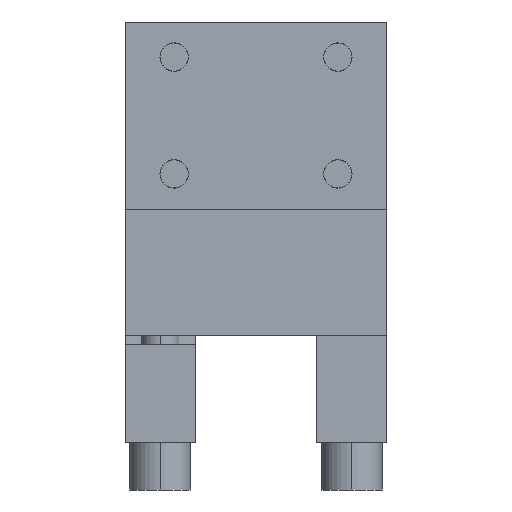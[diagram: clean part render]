
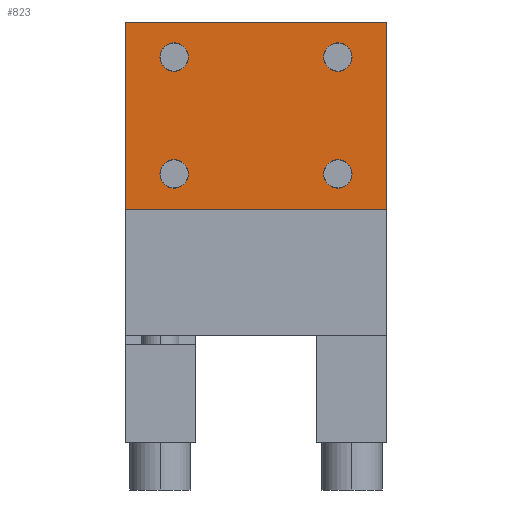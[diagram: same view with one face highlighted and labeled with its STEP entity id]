
A CAD part, left-side view. The second image highlights one B-rep face of the part: STEP entity #823.
In plain terms, the highlighted planar face has unit normal (-1, 0, 0).
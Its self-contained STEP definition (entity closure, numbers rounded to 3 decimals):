
#823=ADVANCED_FACE('Pad.1',(#1981,#1982,#1983,#1984,#1985),#1986,.T.);
#1981=FACE_OUTER_BOUND('',#3584,.T.);
#1982=FACE_BOUND('',#3585,.T.);
#1983=FACE_BOUND('',#3586,.T.);
#1984=FACE_BOUND('',#3587,.T.);
#1985=FACE_BOUND('',#3588,.T.);
#1986=PLANE('',#3589);
#3584=EDGE_LOOP('',(#5667,#5668,#5669,#5670));
#3585=EDGE_LOOP('',(#5671,#5672,#5673,#5674));
#3586=EDGE_LOOP('',(#5675,#5676,#5677,#5678));
#3587=EDGE_LOOP('',(#5679,#5680,#5681,#5682));
#3588=EDGE_LOOP('',(#5683,#5684,#5685,#5686));
#3589=AXIS2_PLACEMENT_3D('',#5687,#5688,#5689);
#5667=ORIENTED_EDGE('',*,*,#9686,.F.);
#5668=ORIENTED_EDGE('',*,*,#9699,.T.);
#5669=ORIENTED_EDGE('',*,*,#9705,.T.);
#5670=ORIENTED_EDGE('',*,*,#9706,.F.);
#5671=ORIENTED_EDGE('',*,*,#9225,.F.);
#5672=ORIENTED_EDGE('',*,*,#9228,.F.);
#5673=ORIENTED_EDGE('',*,*,#9707,.F.);
#5674=ORIENTED_EDGE('',*,*,#9708,.F.);
#5675=ORIENTED_EDGE('',*,*,#9623,.F.);
#5676=ORIENTED_EDGE('',*,*,#9626,.F.);
#5677=ORIENTED_EDGE('',*,*,#9709,.F.);
#5678=ORIENTED_EDGE('',*,*,#9710,.F.);
#5679=ORIENTED_EDGE('',*,*,#9571,.F.);
#5680=ORIENTED_EDGE('',*,*,#9574,.F.);
#5681=ORIENTED_EDGE('',*,*,#9711,.F.);
#5682=ORIENTED_EDGE('',*,*,#9712,.F.);
#5683=ORIENTED_EDGE('',*,*,#9528,.F.);
#5684=ORIENTED_EDGE('',*,*,#9531,.F.);
#5685=ORIENTED_EDGE('',*,*,#9713,.F.);
#5686=ORIENTED_EDGE('',*,*,#9714,.F.);
#5687=CARTESIAN_POINT('',(-38.0,0.0,27.0));
#5688=DIRECTION('',(-1.0,0.0,0.0));
#5689=DIRECTION('',(0.0,0.0,1.0));
#9225=EDGE_CURVE('',#10957,#10953,#10959,.T.);
#9228=EDGE_CURVE('',#10961,#10957,#10964,.T.);
#9528=EDGE_CURVE('',#11428,#11424,#11430,.T.);
#9531=EDGE_CURVE('',#11432,#11428,#11435,.T.);
#9571=EDGE_CURVE('',#11497,#11493,#11499,.T.);
#9574=EDGE_CURVE('',#11501,#11497,#11504,.T.);
#9623=EDGE_CURVE('',#11579,#11575,#11581,.T.);
#9626=EDGE_CURVE('',#11583,#11579,#11586,.T.);
#9686=EDGE_CURVE('',#11680,#11682,#11683,.T.);
#9699=EDGE_CURVE('',#11680,#11703,#11705,.T.);
#9705=EDGE_CURVE('',#11703,#11713,#11714,.T.);
#9706=EDGE_CURVE('',#11682,#11713,#11715,.T.);
#9707=EDGE_CURVE('',#11716,#10961,#11717,.T.);
#9708=EDGE_CURVE('',#10953,#11716,#11718,.T.);
#9709=EDGE_CURVE('',#11719,#11583,#11720,.T.);
#9710=EDGE_CURVE('',#11575,#11719,#11721,.T.);
#9711=EDGE_CURVE('',#11722,#11501,#11723,.T.);
#9712=EDGE_CURVE('',#11493,#11722,#11724,.T.);
#9713=EDGE_CURVE('',#11725,#11432,#11726,.T.);
#9714=EDGE_CURVE('',#11424,#11725,#11727,.T.);
#10953=VERTEX_POINT('',#13473);
#10957=VERTEX_POINT('',#13478);
#10959=CIRCLE('',#13481,3.05);
#10961=VERTEX_POINT('',#13483);
#10964=CIRCLE('',#13487,3.05);
#11424=VERTEX_POINT('',#14556);
#11428=VERTEX_POINT('',#14561);
#11430=CIRCLE('',#14564,3.05);
#11432=VERTEX_POINT('',#14566);
#11435=CIRCLE('',#14570,3.05);
#11493=VERTEX_POINT('',#14674);
#11497=VERTEX_POINT('',#14679);
#11499=CIRCLE('',#14682,3.05);
#11501=VERTEX_POINT('',#14684);
#11504=CIRCLE('',#14688,3.05);
#11575=VERTEX_POINT('',#14808);
#11579=VERTEX_POINT('',#14813);
#11581=CIRCLE('',#14816,3.05);
#11583=VERTEX_POINT('',#14818);
#11586=CIRCLE('',#14822,3.05);
#11680=VERTEX_POINT('',#15236);
#11682=VERTEX_POINT('',#15239);
#11683=LINE('',#15240,#15241);
#11703=VERTEX_POINT('',#15269);
#11705=LINE('',#15272,#15273);
#11713=VERTEX_POINT('',#15284);
#11714=LINE('',#15285,#15286);
#11715=LINE('',#15287,#15288);
#11716=VERTEX_POINT('',#15289);
#11717=CIRCLE('',#15290,3.05);
#11718=CIRCLE('',#15291,3.05);
#11719=VERTEX_POINT('',#15292);
#11720=CIRCLE('',#15293,3.05);
#11721=CIRCLE('',#15294,3.05);
#11722=VERTEX_POINT('',#15295);
#11723=CIRCLE('',#15296,3.05);
#11724=CIRCLE('',#15297,3.05);
#11725=VERTEX_POINT('',#15298);
#11726=CIRCLE('',#15299,3.05);
#11727=CIRCLE('',#15300,3.05);
#13473=CARTESIAN_POINT('',(-38.0,-14.45,59.5));
#13478=CARTESIAN_POINT('',(-38.0,-20.177,60.962));
#13481=AXIS2_PLACEMENT_3D('',#18081,#18082,#18083);
#13483=CARTESIAN_POINT('',(-38.0,-20.55,59.5));
#13487=AXIS2_PLACEMENT_3D('',#18085,#18086,#18087);
#14556=CARTESIAN_POINT('',(-38.0,20.55,34.5));
#14561=CARTESIAN_POINT('',(-38.0,14.823,35.962));
#14564=AXIS2_PLACEMENT_3D('',#18469,#18470,#18471);
#14566=CARTESIAN_POINT('',(-38.0,14.45,34.5));
#14570=AXIS2_PLACEMENT_3D('',#18473,#18474,#18475);
#14674=CARTESIAN_POINT('',(-38.0,-14.45,34.5));
#14679=CARTESIAN_POINT('',(-38.0,-20.177,35.962));
#14682=AXIS2_PLACEMENT_3D('',#18532,#18533,#18534);
#14684=CARTESIAN_POINT('',(-38.0,-20.55,34.5));
#14688=AXIS2_PLACEMENT_3D('',#18536,#18537,#18538);
#14808=CARTESIAN_POINT('',(-38.0,20.55,59.5));
#14813=CARTESIAN_POINT('',(-38.0,14.823,60.962));
#14816=AXIS2_PLACEMENT_3D('',#18610,#18611,#18612);
#14818=CARTESIAN_POINT('',(-38.0,14.45,59.5));
#14822=AXIS2_PLACEMENT_3D('',#18614,#18615,#18616);
#15236=CARTESIAN_POINT('',(-38.0,-28.0,27.0));
#15239=CARTESIAN_POINT('',(-38.0,28.0,27.0));
#15240=CARTESIAN_POINT('',(-38.0,0.0,27.0));
#15241=VECTOR('',#18683,1.0);
#15269=CARTESIAN_POINT('',(-38.0,-28.0,67.0));
#15272=CARTESIAN_POINT('',(-38.0,-28.0,47.0));
#15273=VECTOR('',#18696,1.0);
#15284=CARTESIAN_POINT('',(-38.0,28.0,67.0));
#15285=CARTESIAN_POINT('',(-38.0,0.0,67.0));
#15286=VECTOR('',#18703,1.0);
#15287=CARTESIAN_POINT('',(-38.0,28.0,47.0));
#15288=VECTOR('',#18704,1.0);
#15289=CARTESIAN_POINT('',(-38.0,-14.823,58.038));
#15290=AXIS2_PLACEMENT_3D('',#18705,#18706,#18707);
#15291=AXIS2_PLACEMENT_3D('',#18708,#18709,#18710);
#15292=CARTESIAN_POINT('',(-38.0,20.177,58.038));
#15293=AXIS2_PLACEMENT_3D('',#18711,#18712,#18713);
#15294=AXIS2_PLACEMENT_3D('',#18714,#18715,#18716);
#15295=CARTESIAN_POINT('',(-38.0,-14.823,33.038));
#15296=AXIS2_PLACEMENT_3D('',#18717,#18718,#18719);
#15297=AXIS2_PLACEMENT_3D('',#18720,#18721,#18722);
#15298=CARTESIAN_POINT('',(-38.0,20.177,33.038));
#15299=AXIS2_PLACEMENT_3D('',#18723,#18724,#18725);
#15300=AXIS2_PLACEMENT_3D('',#18726,#18727,#18728);
#18081=CARTESIAN_POINT('',(-38.0,-17.5,59.5));
#18082=DIRECTION('',(-1.0,0.0,0.0));
#18083=DIRECTION('',(0.0,0.0,1.0));
#18085=CARTESIAN_POINT('',(-38.0,-17.5,59.5));
#18086=DIRECTION('',(-1.0,0.0,0.0));
#18087=DIRECTION('',(0.0,0.0,1.0));
#18469=CARTESIAN_POINT('',(-38.0,17.5,34.5));
#18470=DIRECTION('',(-1.0,0.0,0.0));
#18471=DIRECTION('',(0.0,0.0,1.0));
#18473=CARTESIAN_POINT('',(-38.0,17.5,34.5));
#18474=DIRECTION('',(-1.0,0.0,0.0));
#18475=DIRECTION('',(0.0,0.0,1.0));
#18532=CARTESIAN_POINT('',(-38.0,-17.5,34.5));
#18533=DIRECTION('',(-1.0,0.0,0.0));
#18534=DIRECTION('',(0.0,0.0,1.0));
#18536=CARTESIAN_POINT('',(-38.0,-17.5,34.5));
#18537=DIRECTION('',(-1.0,0.0,0.0));
#18538=DIRECTION('',(0.0,0.0,1.0));
#18610=CARTESIAN_POINT('',(-38.0,17.5,59.5));
#18611=DIRECTION('',(-1.0,0.0,0.0));
#18612=DIRECTION('',(0.0,0.0,1.0));
#18614=CARTESIAN_POINT('',(-38.0,17.5,59.5));
#18615=DIRECTION('',(-1.0,0.0,0.0));
#18616=DIRECTION('',(0.0,0.0,1.0));
#18683=DIRECTION('',(0.0,1.0,0.0));
#18696=DIRECTION('',(0.0,0.0,1.0));
#18703=DIRECTION('',(0.0,1.0,0.0));
#18704=DIRECTION('',(0.0,0.0,1.0));
#18705=CARTESIAN_POINT('',(-38.0,-17.5,59.5));
#18706=DIRECTION('',(-1.0,0.0,0.0));
#18707=DIRECTION('',(0.0,0.0,1.0));
#18708=CARTESIAN_POINT('',(-38.0,-17.5,59.5));
#18709=DIRECTION('',(-1.0,0.0,0.0));
#18710=DIRECTION('',(0.0,0.0,1.0));
#18711=CARTESIAN_POINT('',(-38.0,17.5,59.5));
#18712=DIRECTION('',(-1.0,0.0,0.0));
#18713=DIRECTION('',(0.0,0.0,1.0));
#18714=CARTESIAN_POINT('',(-38.0,17.5,59.5));
#18715=DIRECTION('',(-1.0,0.0,0.0));
#18716=DIRECTION('',(0.0,0.0,1.0));
#18717=CARTESIAN_POINT('',(-38.0,-17.5,34.5));
#18718=DIRECTION('',(-1.0,0.0,0.0));
#18719=DIRECTION('',(0.0,0.0,1.0));
#18720=CARTESIAN_POINT('',(-38.0,-17.5,34.5));
#18721=DIRECTION('',(-1.0,0.0,0.0));
#18722=DIRECTION('',(0.0,0.0,1.0));
#18723=CARTESIAN_POINT('',(-38.0,17.5,34.5));
#18724=DIRECTION('',(-1.0,0.0,0.0));
#18725=DIRECTION('',(0.0,0.0,1.0));
#18726=CARTESIAN_POINT('',(-38.0,17.5,34.5));
#18727=DIRECTION('',(-1.0,0.0,0.0));
#18728=DIRECTION('',(0.0,0.0,1.0));
